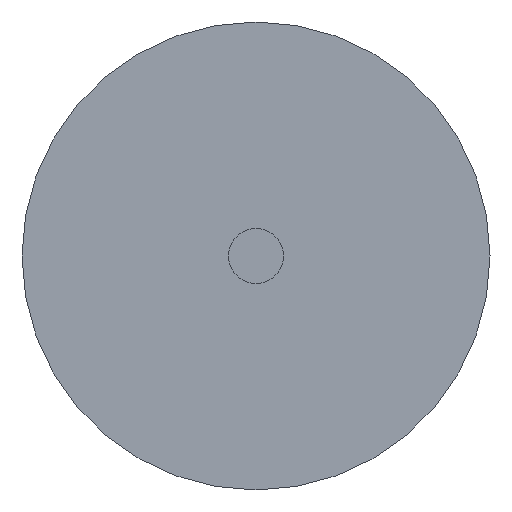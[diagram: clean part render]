
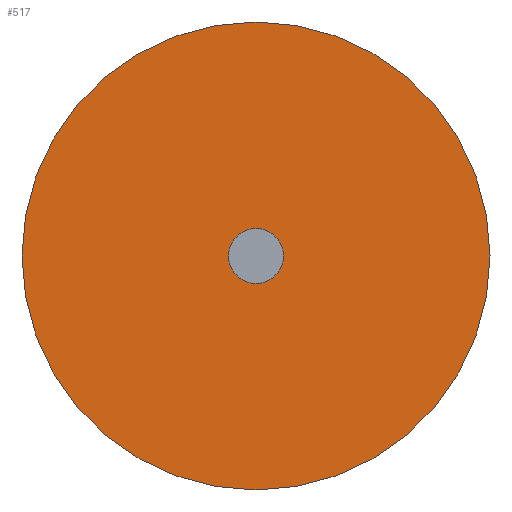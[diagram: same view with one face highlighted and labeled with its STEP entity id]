
A CAD part, front view. The second image highlights one B-rep face of the part: STEP entity #517.
In plain terms, the highlighted planar face has unit normal (0, -1, 0).
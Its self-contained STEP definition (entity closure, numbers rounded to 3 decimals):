
#21 = DIRECTION ( 'NONE',  ( 0., 1., 0. ) ) ;
#42 = VERTEX_POINT ( 'NONE', #558 ) ;
#64 = CARTESIAN_POINT ( 'NONE',  ( 0.75, -6.75, 0. ) ) ;
#98 = EDGE_CURVE ( 'NONE', #203, #525, #251, .T. ) ;
#105 = FACE_OUTER_BOUND ( 'NONE', #520, .T. ) ;
#106 = AXIS2_PLACEMENT_3D ( 'NONE', #64, #511, #549 ) ;
#148 = CIRCLE ( 'NONE', #260, 0.75 ) ;
#151 = DIRECTION ( 'NONE',  ( 0., 1., 0. ) ) ;
#175 = DIRECTION ( 'NONE',  ( -1., 0., 0. ) ) ;
#179 = ORIENTED_EDGE ( 'NONE', *, *, #537, .F. ) ;
#180 = DIRECTION ( 'NONE',  ( 0., 1., 0. ) ) ;
#185 = CIRCLE ( 'NONE', #530, 12.75 ) ;
#198 = CARTESIAN_POINT ( 'NONE',  ( -12.75, -6.75, 0. ) ) ;
#203 = VERTEX_POINT ( 'NONE', #495 ) ;
#208 = DIRECTION ( 'NONE',  ( -1., 0., 0. ) ) ;
#232 = EDGE_CURVE ( 'NONE', #450, #42, #264, .T. ) ;
#239 = ORIENTED_EDGE ( 'NONE', *, *, #98, .F. ) ;
#251 = CIRCLE ( 'NONE', #484, 12.75 ) ;
#253 = CARTESIAN_POINT ( 'NONE',  ( 0., -6.75, 0. ) ) ;
#260 = AXIS2_PLACEMENT_3D ( 'NONE', #463, #151, #328 ) ;
#264 = CIRCLE ( 'NONE', #568, 0.75 ) ;
#267 = CARTESIAN_POINT ( 'NONE',  ( 0., -6.75, 0. ) ) ;
#279 = ORIENTED_EDGE ( 'NONE', *, *, #232, .T. ) ;
#302 = DIRECTION ( 'NONE',  ( -1., 0., 0. ) ) ;
#327 = ORIENTED_EDGE ( 'NONE', *, *, #502, .T. ) ;
#328 = DIRECTION ( 'NONE',  ( -1., 0., 0. ) ) ;
#374 = PLANE ( 'NONE',  #106 ) ;
#388 = DIRECTION ( 'NONE',  ( 0., 1., 0. ) ) ;
#422 = CARTESIAN_POINT ( 'NONE',  ( 0.75, -6.75, 0. ) ) ;
#450 = VERTEX_POINT ( 'NONE', #422 ) ;
#453 = FACE_BOUND ( 'NONE', #467, .T. ) ;
#463 = CARTESIAN_POINT ( 'NONE',  ( 0., -6.75, 0. ) ) ;
#467 = EDGE_LOOP ( 'NONE', ( #327, #279 ) ) ;
#484 = AXIS2_PLACEMENT_3D ( 'NONE', #253, #21, #302 ) ;
#485 = CARTESIAN_POINT ( 'NONE',  ( 0., -6.75, 0. ) ) ;
#495 = CARTESIAN_POINT ( 'NONE',  ( 12.75, -6.75, 0. ) ) ;
#502 = EDGE_CURVE ( 'NONE', #42, #450, #148, .T. ) ;
#511 = DIRECTION ( 'NONE',  ( 0., 1., 0. ) ) ;
#517 = ADVANCED_FACE ( 'NONE', ( #105, #453 ), #374, .F. ) ;
#520 = EDGE_LOOP ( 'NONE', ( #179, #239 ) ) ;
#525 = VERTEX_POINT ( 'NONE', #198 ) ;
#530 = AXIS2_PLACEMENT_3D ( 'NONE', #485, #388, #208 ) ;
#537 = EDGE_CURVE ( 'NONE', #525, #203, #185, .T. ) ;
#549 = DIRECTION ( 'NONE',  ( -1., 0., 0. ) ) ;
#558 = CARTESIAN_POINT ( 'NONE',  ( -0.75, -6.75, 0. ) ) ;
#568 = AXIS2_PLACEMENT_3D ( 'NONE', #267, #180, #175 ) ;
